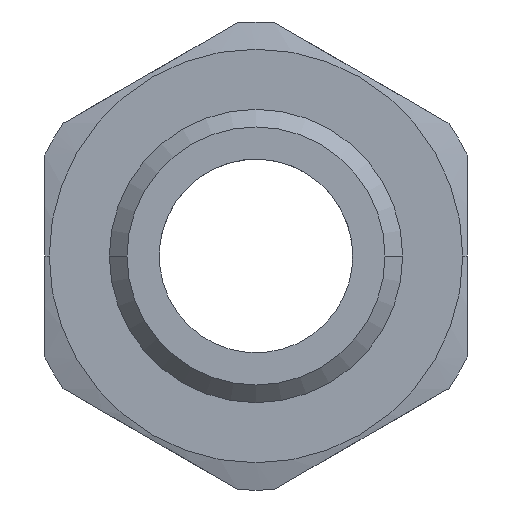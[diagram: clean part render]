
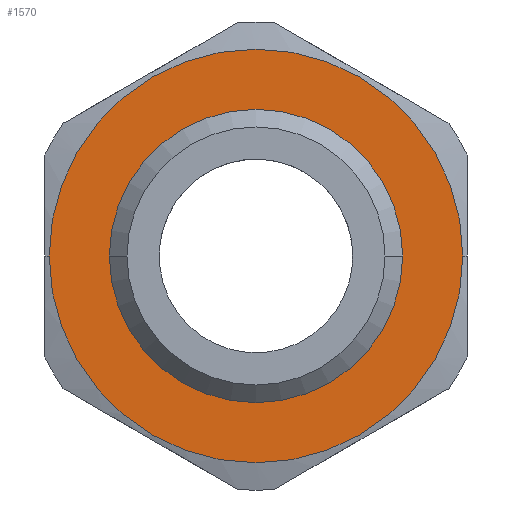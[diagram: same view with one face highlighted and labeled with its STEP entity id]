
A CAD part, front view. The second image highlights one B-rep face of the part: STEP entity #1570.
In plain terms, the highlighted planar face has unit normal (0, -1, 0).
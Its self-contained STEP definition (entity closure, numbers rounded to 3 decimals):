
#1220=CARTESIAN_POINT('',(390.991,47.585,0.));
#1230=DIRECTION('',(0.,1.,0.));
#1240=DIRECTION('',(1.,0.,0.));
#1250=AXIS2_PLACEMENT_3D('',#1220,#1230,#1240);
#1260=PLANE('',#1250);
#1270=CARTESIAN_POINT('',(380.95,47.585,0.));
#1280=DIRECTION('',(0.,-1.,0.));
#1290=DIRECTION('',(1.,0.,0.));
#1300=AXIS2_PLACEMENT_3D('',#1270,#1280,#1290);
#1310=CIRCLE('',#1300,11.75);
#1320=CARTESIAN_POINT('',(392.7,47.585,0.));
#1330=VERTEX_POINT('',#1320);
#1340=CARTESIAN_POINT('',(369.2,47.585,
0.));
#1350=VERTEX_POINT('',#1340);
#1360=EDGE_CURVE('',#1330,#1350,#1310,.T.);
#1370=ORIENTED_EDGE('',*,*,#1360,.T.);
#1380=EDGE_CURVE('',#1350,#1330,#1310,.T.);
#1390=ORIENTED_EDGE('',*,*,#1380,.T.);
#1400=EDGE_LOOP('',(#1390,#1370));
#1410=FACE_OUTER_BOUND('',#1400,.T.);
#1420=CARTESIAN_POINT('',(380.95,47.585,0.));
#1430=DIRECTION('',(0.,-1.,0.));
#1440=DIRECTION('',(1.,0.,0.));
#1450=AXIS2_PLACEMENT_3D('',#1420,#1430,#1440);
#1460=CIRCLE('',#1450,8.331);
#1470=CARTESIAN_POINT('',(389.281,47.585,0.));
#1480=VERTEX_POINT('',#1470);
#1490=CARTESIAN_POINT('',(372.619,47.585,
0.));
#1500=VERTEX_POINT('',#1490);
#1510=EDGE_CURVE('',#1480,#1500,#1460,.T.);
#1520=ORIENTED_EDGE('',*,*,#1510,.F.);
#1530=EDGE_CURVE('',#1500,#1480,#1460,.T.);
#1540=ORIENTED_EDGE('',*,*,#1530,.F.);
#1550=EDGE_LOOP('',(#1540,#1520));
#1560=FACE_BOUND('',#1550,.T.);
#1570=ADVANCED_FACE('',(#1410,#1560),#1260,.F.);
